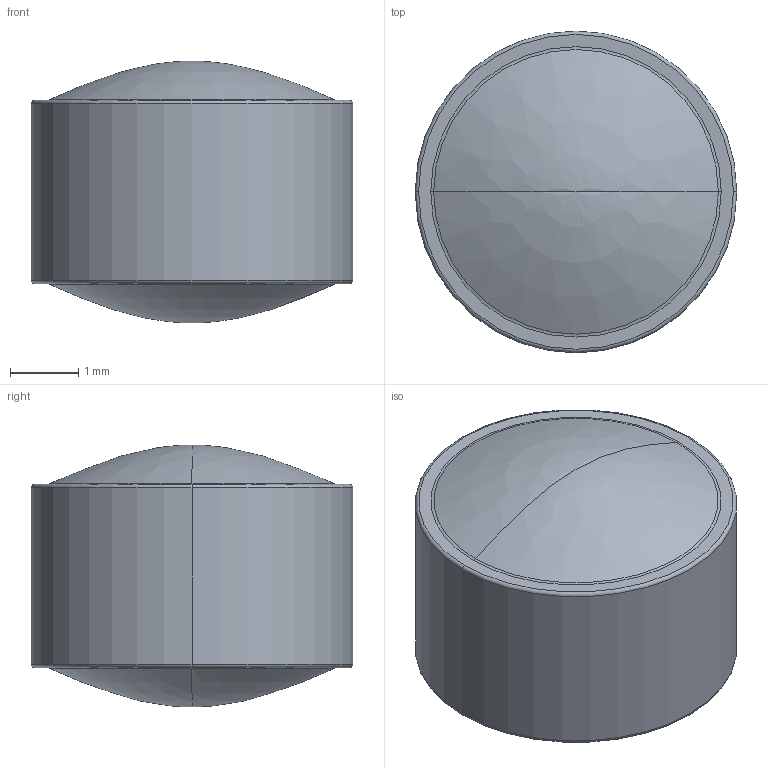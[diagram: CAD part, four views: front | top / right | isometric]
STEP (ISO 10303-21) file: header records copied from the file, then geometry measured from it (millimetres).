
FILE_DESCRIPTION((''),'2;1');
FILE_NAME('355440','2025-07-13T20:36:07',('admin'),('LIGHTPATH'),'CREO PARAMETRIC BY PTC INC, 2024063','CREO PARAMETRIC BY PTC INC, 2024063','');
FILE_SCHEMA(('CONFIG_CONTROL_DESIGN'));
Length unit declared in the file: millimetre
Products named in the file (1): 355440
Bounding box: 4.7 x 4.7 x 3.83 mm (x, y, z)
Volume: 54 mm3; surface area: 75.4 mm2
Topology: 1 solids, 1 shells, 16 faces, 34 edges, 18 vertices
Faces by surface type: torus 8, revolution 4, plane 2, cylinder 2
Entity records: 1398 total; most frequent: CARTESIAN_POINT 1022, DIRECTION 78, ORIENTED_EDGE 60, AXIS2_PLACEMENT_3D 36, EDGE_CURVE 30, CIRCLE 24, VERTEX_POINT 18, EDGE_LOOP 18
